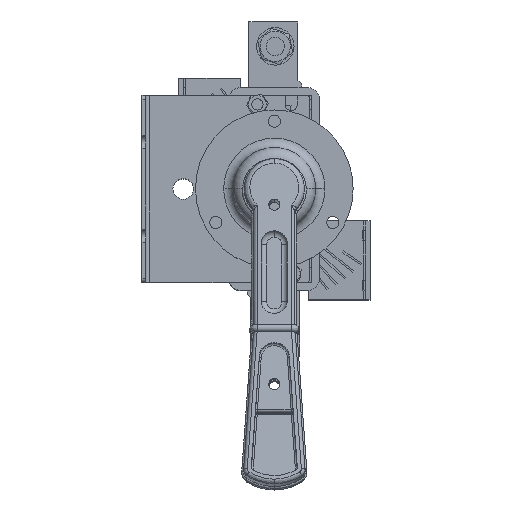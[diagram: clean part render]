
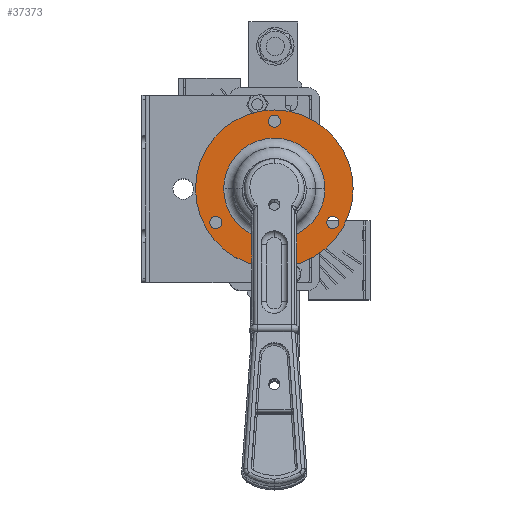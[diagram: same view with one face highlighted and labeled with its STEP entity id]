
A CAD part, top view. The second image highlights one B-rep face of the part: STEP entity #37373.
In plain terms, the highlighted planar face has unit normal (0, 0, 1).
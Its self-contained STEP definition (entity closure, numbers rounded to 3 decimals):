
#781 = CARTESIAN_POINT ( 'NONE',  ( 0., 36., 183. ) ) ;
#1242 = CARTESIAN_POINT ( 'NONE',  ( 27.927, -18., 183. ) ) ;
#1330 = ORIENTED_EDGE ( 'NONE', *, *, #9843, .T. ) ;
#1357 = CARTESIAN_POINT ( 'NONE',  ( 0., 36., 183. ) ) ;
#1416 = VERTEX_POINT ( 'NONE', #27104 ) ;
#2140 = CIRCLE ( 'NONE', #58351, 26.975 ) ;
#2475 = DIRECTION ( 'NONE',  ( -1., 0., 0. ) ) ;
#2602 = ORIENTED_EDGE ( 'NONE', *, *, #29757, .F. ) ;
#2802 = CIRCLE ( 'NONE', #27396, 3.25 ) ;
#4469 = CARTESIAN_POINT ( 'NONE',  ( 34.427, -18., 183. ) ) ;
#4550 = CIRCLE ( 'NONE', #33786, 3.25 ) ;
#5968 = EDGE_LOOP ( 'NONE', ( #7717, #29106 ) ) ;
#6362 = DIRECTION ( 'NONE',  ( -1., 0., 0. ) ) ;
#6956 = DIRECTION ( 'NONE',  ( -1., 0., 0. ) ) ;
#7550 = CIRCLE ( 'NONE', #69335, 3.25 ) ;
#7717 = ORIENTED_EDGE ( 'NONE', *, *, #40628, .T. ) ;
#8241 = DIRECTION ( 'NONE',  ( 0., 0., -1. ) ) ;
#8572 = FACE_BOUND ( 'NONE', #37431, .T. ) ;
#9843 = EDGE_CURVE ( 'NONE', #12201, #10920, #21053, .T. ) ;
#10092 = DIRECTION ( 'NONE',  ( 0., 0., -1. ) ) ;
#10491 = EDGE_LOOP ( 'NONE', ( #65451, #55574 ) ) ;
#10714 = EDGE_CURVE ( 'NONE', #10920, #12201, #73133, .T. ) ;
#10920 = VERTEX_POINT ( 'NONE', #25192 ) ;
#12175 = DIRECTION ( 'NONE',  ( 0., 0., -1. ) ) ;
#12201 = VERTEX_POINT ( 'NONE', #66985 ) ;
#13830 = VERTEX_POINT ( 'NONE', #4469 ) ;
#15078 = CARTESIAN_POINT ( 'NONE',  ( 31.177, -18., 183. ) ) ;
#16987 = DIRECTION ( 'NONE',  ( -1., 0., 0. ) ) ;
#18143 = VERTEX_POINT ( 'NONE', #1242 ) ;
#18858 = CIRCLE ( 'NONE', #40703, 3.25 ) ;
#20774 = DIRECTION ( 'NONE',  ( -1., 0., 0. ) ) ;
#20893 = CARTESIAN_POINT ( 'NONE',  ( -34.427, -18., 183. ) ) ;
#21053 = CIRCLE ( 'NONE', #29360, 3.25 ) ;
#21313 = CARTESIAN_POINT ( 'NONE',  ( -31.177, -18., 183. ) ) ;
#21898 = FACE_BOUND ( 'NONE', #10491, .T. ) ;
#22015 = AXIS2_PLACEMENT_3D ( 'NONE', #29056, #68513, #34725 ) ;
#23671 = FACE_BOUND ( 'NONE', #5968, .T. ) ;
#24012 = DIRECTION ( 'NONE',  ( 0., 0., -1. ) ) ;
#25192 = CARTESIAN_POINT ( 'NONE',  ( -3.25, 36., 183. ) ) ;
#26976 = DIRECTION ( 'NONE',  ( -1., 0., 0. ) ) ;
#27104 = CARTESIAN_POINT ( 'NONE',  ( -42., 0., 183. ) ) ;
#27284 = ORIENTED_EDGE ( 'NONE', *, *, #10714, .T. ) ;
#27396 = AXIS2_PLACEMENT_3D ( 'NONE', #70099, #36338, #2475 ) ;
#28222 = EDGE_CURVE ( 'NONE', #34140, #42393, #2140, .T. ) ;
#29056 = CARTESIAN_POINT ( 'NONE',  ( 0., 0., 183. ) ) ;
#29106 = ORIENTED_EDGE ( 'NONE', *, *, #35107, .T. ) ;
#29281 = EDGE_CURVE ( 'NONE', #42393, #34140, #36097, .T. ) ;
#29360 = AXIS2_PLACEMENT_3D ( 'NONE', #1357, #40840, #6956 ) ;
#29757 = EDGE_CURVE ( 'NONE', #1416, #65586, #43959, .T. ) ;
#32665 = ORIENTED_EDGE ( 'NONE', *, *, #70116, .T. ) ;
#33418 = CARTESIAN_POINT ( 'NONE',  ( -26.975, 0., 183. ) ) ;
#33786 = AXIS2_PLACEMENT_3D ( 'NONE', #42155, #8241, #47842 ) ;
#34140 = VERTEX_POINT ( 'NONE', #33418 ) ;
#34536 = AXIS2_PLACEMENT_3D ( 'NONE', #46063, #12175, #51713 ) ;
#34725 = DIRECTION ( 'NONE',  ( -1., 0., 0. ) ) ;
#35107 = EDGE_CURVE ( 'NONE', #65864, #50058, #2802, .T. ) ;
#36097 = CIRCLE ( 'NONE', #70216, 26.975 ) ;
#36338 = DIRECTION ( 'NONE',  ( 0., 0., -1. ) ) ;
#36936 = FACE_OUTER_BOUND ( 'NONE', #41795, .T. ) ;
#37307 = ORIENTED_EDGE ( 'NONE', *, *, #40257, .F. ) ;
#37373 = ADVANCED_FACE ( 'NONE', ( #51923, #23671, #8572, #36936, #21898 ), #73282, .F. ) ;
#37431 = EDGE_LOOP ( 'NONE', ( #1330, #27284 ) ) ;
#40257 = EDGE_CURVE ( 'NONE', #65586, #1416, #66567, .T. ) ;
#40261 = DIRECTION ( 'NONE',  ( 0., 0., -1. ) ) ;
#40628 = EDGE_CURVE ( 'NONE', #50058, #65864, #18858, .T. ) ;
#40703 = AXIS2_PLACEMENT_3D ( 'NONE', #21313, #60820, #26976 ) ;
#40840 = DIRECTION ( 'NONE',  ( 0., 0., -1. ) ) ;
#41162 = ORIENTED_EDGE ( 'NONE', *, *, #60728, .T. ) ;
#41795 = EDGE_LOOP ( 'NONE', ( #2602, #37307 ) ) ;
#42155 = CARTESIAN_POINT ( 'NONE',  ( 31.177, -18., 183. ) ) ;
#42393 = VERTEX_POINT ( 'NONE', #70202 ) ;
#43959 = CIRCLE ( 'NONE', #22015, 42. ) ;
#43993 = CARTESIAN_POINT ( 'NONE',  ( 0., 0., 183. ) ) ;
#46063 = CARTESIAN_POINT ( 'NONE',  ( 0., 0., 183. ) ) ;
#46444 = CARTESIAN_POINT ( 'NONE',  ( -27.927, -18., 183. ) ) ;
#46860 = CARTESIAN_POINT ( 'NONE',  ( 42., 0., 183. ) ) ;
#47842 = DIRECTION ( 'NONE',  ( -1., 0., 0. ) ) ;
#49293 = AXIS2_PLACEMENT_3D ( 'NONE', #781, #40261, #6362 ) ;
#49657 = DIRECTION ( 'NONE',  ( -1., 0., 0. ) ) ;
#50058 = VERTEX_POINT ( 'NONE', #46444 ) ;
#50819 = DIRECTION ( 'NONE',  ( 0., 0., -1. ) ) ;
#51713 = DIRECTION ( 'NONE',  ( -1., 0., 0. ) ) ;
#51923 = FACE_BOUND ( 'NONE', #69842, .T. ) ;
#54601 = DIRECTION ( 'NONE',  ( 0., 0., -1. ) ) ;
#55574 = ORIENTED_EDGE ( 'NONE', *, *, #29281, .T. ) ;
#57844 = CARTESIAN_POINT ( 'NONE',  ( 0., 0., 183. ) ) ;
#58351 = AXIS2_PLACEMENT_3D ( 'NONE', #43993, #10092, #49657 ) ;
#60728 = EDGE_CURVE ( 'NONE', #13830, #18143, #7550, .T. ) ;
#60820 = DIRECTION ( 'NONE',  ( 0., 0., -1. ) ) ;
#60961 = AXIS2_PLACEMENT_3D ( 'NONE', #67571, #50819, #16987 ) ;
#63508 = DIRECTION ( 'NONE',  ( -1., 0., 0. ) ) ;
#65451 = ORIENTED_EDGE ( 'NONE', *, *, #28222, .T. ) ;
#65586 = VERTEX_POINT ( 'NONE', #46860 ) ;
#65864 = VERTEX_POINT ( 'NONE', #20893 ) ;
#66567 = CIRCLE ( 'NONE', #34536, 42. ) ;
#66985 = CARTESIAN_POINT ( 'NONE',  ( 3.25, 36., 183. ) ) ;
#67571 = CARTESIAN_POINT ( 'NONE',  ( 0., 42., 183. ) ) ;
#68513 = DIRECTION ( 'NONE',  ( 0., 0., -1. ) ) ;
#69335 = AXIS2_PLACEMENT_3D ( 'NONE', #15078, #54601, #20774 ) ;
#69842 = EDGE_LOOP ( 'NONE', ( #41162, #32665 ) ) ;
#70099 = CARTESIAN_POINT ( 'NONE',  ( -31.177, -18., 183. ) ) ;
#70116 = EDGE_CURVE ( 'NONE', #18143, #13830, #4550, .T. ) ;
#70202 = CARTESIAN_POINT ( 'NONE',  ( 26.975, 0., 183. ) ) ;
#70216 = AXIS2_PLACEMENT_3D ( 'NONE', #57844, #24012, #63508 ) ;
#73133 = CIRCLE ( 'NONE', #49293, 3.25 ) ;
#73282 = PLANE ( 'NONE',  #60961 ) ;
